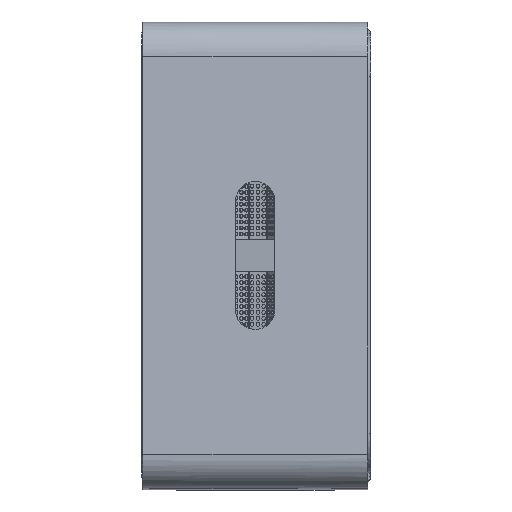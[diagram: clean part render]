
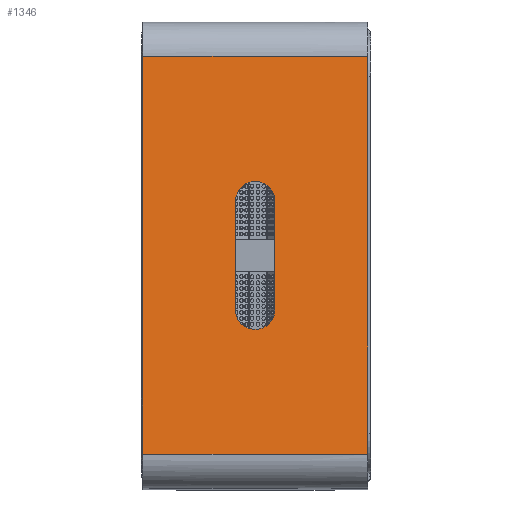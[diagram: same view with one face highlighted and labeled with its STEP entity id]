
A CAD part, top view. The second image highlights one B-rep face of the part: STEP entity #1346.
In plain terms, the highlighted planar face has unit normal (0.222, 0, 0.975) as drawn and (0, 0.222, 0.975) by its records, which use the part's own axes.
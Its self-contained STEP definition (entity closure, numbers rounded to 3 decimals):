
#1346=ADVANCED_FACE('',(#6804,#6806),#6808,.T.);
#6804=FACE_BOUND('',#6805,.T.);
#6805=EDGE_LOOP('',(#14409,#14410,#14411,#14412));
#6806=FACE_BOUND('',#6807,.T.);
#6807=EDGE_LOOP('',(#14413,#14414,#14415,#14416));
#6808=PLANE('',#6809);
#6809=AXIS2_PLACEMENT_3D('',#6810,#6811,#6812);
#6810=CARTESIAN_POINT('',(0.,0.,0.));
#6811=DIRECTION('',(0.,0.222,0.975));
#6812=DIRECTION('',(-1.,0.,0.));
#14409=ORIENTED_EDGE('',*,*,#16988,.T.);
#14410=ORIENTED_EDGE('',*,*,#16968,.F.);
#14411=ORIENTED_EDGE('',*,*,#16989,.T.);
#14412=ORIENTED_EDGE('',*,*,#16957,.T.);
#14413=ORIENTED_EDGE('',*,*,#16990,.T.);
#14414=ORIENTED_EDGE('',*,*,#16991,.T.);
#14415=ORIENTED_EDGE('',*,*,#16992,.T.);
#14416=ORIENTED_EDGE('',*,*,#16993,.T.);
#16957=EDGE_CURVE('',#18352,#18350,#18353,.T.);
#16968=EDGE_CURVE('',#18366,#18364,#18368,.T.);
#16988=EDGE_CURVE('',#18350,#18364,#18390,.T.);
#16989=EDGE_CURVE('',#18366,#18352,#18391,.T.);
#16990=EDGE_CURVE('',#18392,#18393,#18394,.F.);
#16991=EDGE_CURVE('',#18393,#18395,#18396,.F.);
#16992=EDGE_CURVE('',#18395,#18397,#18398,.F.);
#16993=EDGE_CURVE('',#18397,#18392,#18399,.F.);
#18350=VERTEX_POINT('',#20815);
#18352=VERTEX_POINT('',#20833);
#18353=B_SPLINE_CURVE_WITH_KNOTS('',3,
(#20834,#20835,#20836,#20837),
.UNSPECIFIED.,.F.,.F.,
(4,4),
(0.,1.),
.UNSPECIFIED.);
#18364=VERTEX_POINT('',#20935);
#18366=VERTEX_POINT('',#20970);
#18368=B_SPLINE_CURVE_WITH_KNOTS('',3,
(#21005,#21006,#21007,#21008),
.UNSPECIFIED.,.F.,.F.,
(4,4),
(0.,1.),
.UNSPECIFIED.);
#18390=LINE('',#21120,#21121);
#18391=LINE('',#21123,#21124);
#18392=VERTEX_POINT('',#21126);
#18393=VERTEX_POINT('',#21127);
#18394=LINE('',#21128,#21129);
#18395=VERTEX_POINT('',#21131);
#18396=(BOUNDED_CURVE()B_SPLINE_CURVE(3,
(#21132,#21133,#21134,#21135),
.UNSPECIFIED.,.F.,.F.)B_SPLINE_CURVE_WITH_KNOTS((4,4),
(0.,1.),
.UNSPECIFIED.)CURVE()GEOMETRIC_REPRESENTATION_ITEM()RATIONAL_B_SPLINE_CURVE((1.,
0.333,0.333,1.))REPRESENTATION_ITEM(''));
#18397=VERTEX_POINT('',#21136);
#18398=LINE('',#21137,#21138);
#18399=(BOUNDED_CURVE()B_SPLINE_CURVE(3,
(#21140,#21141,#21142,#21143),
.UNSPECIFIED.,.F.,.F.)B_SPLINE_CURVE_WITH_KNOTS((4,4),
(0.,1.),
.UNSPECIFIED.)CURVE()GEOMETRIC_REPRESENTATION_ITEM()RATIONAL_B_SPLINE_CURVE((1.,
0.333,0.333,1.))REPRESENTATION_ITEM(''));
#20815=CARTESIAN_POINT('',(0.,0.,0.));
#20833=CARTESIAN_POINT('',(0.,-228.,52.));
#20834=CARTESIAN_POINT('',(0.,-228.,52.));
#20835=CARTESIAN_POINT('',(0.,-152.,34.667));
#20836=CARTESIAN_POINT('',(0.,-76.,17.333));
#20837=CARTESIAN_POINT('',(0.,0.,0.));
#20935=CARTESIAN_POINT('',(-403.,0.,0.));
#20970=CARTESIAN_POINT('',(-403.,-228.,52.));
#21005=CARTESIAN_POINT('',(-403.,-228.,52.));
#21006=CARTESIAN_POINT('',(-403.,-152.,34.667));
#21007=CARTESIAN_POINT('',(-403.,-76.,17.333));
#21008=CARTESIAN_POINT('',(-403.,0.,0.));
#21120=CARTESIAN_POINT('',(0.,0.,0.));
#21121=VECTOR('',#21122,1.);
#21122=DIRECTION('',(-1.,0.,0.));
#21123=CARTESIAN_POINT('',(-403.,-228.,52.));
#21124=VECTOR('',#21125,1.);
#21125=DIRECTION('',(1.,0.,0.));
#21126=CARTESIAN_POINT('',(-256.5,-94.,21.439));
#21127=CARTESIAN_POINT('',(-146.5,-94.,21.439));
#21128=CARTESIAN_POINT('',(-146.5,-94.,21.439));
#21129=VECTOR('',#21130,1.);
#21130=DIRECTION('',(-1.,0.,0.));
#21131=CARTESIAN_POINT('',(-146.5,-134.,30.561));
#21132=CARTESIAN_POINT('',(-146.5,-134.,30.561));
#21133=CARTESIAN_POINT('',(-106.5,-134.,30.561));
#21134=CARTESIAN_POINT('',(-106.5,-94.,21.439));
#21135=CARTESIAN_POINT('',(-146.5,-94.,21.439));
#21136=CARTESIAN_POINT('',(-256.5,-134.,30.561));
#21137=CARTESIAN_POINT('',(-256.5,-134.,30.561));
#21138=VECTOR('',#21139,1.);
#21139=DIRECTION('',(1.,0.,0.));
#21140=CARTESIAN_POINT('',(-256.5,-94.,21.439));
#21141=CARTESIAN_POINT('',(-296.5,-94.,21.439));
#21142=CARTESIAN_POINT('',(-296.5,-134.,30.561));
#21143=CARTESIAN_POINT('',(-256.5,-134.,30.561));
